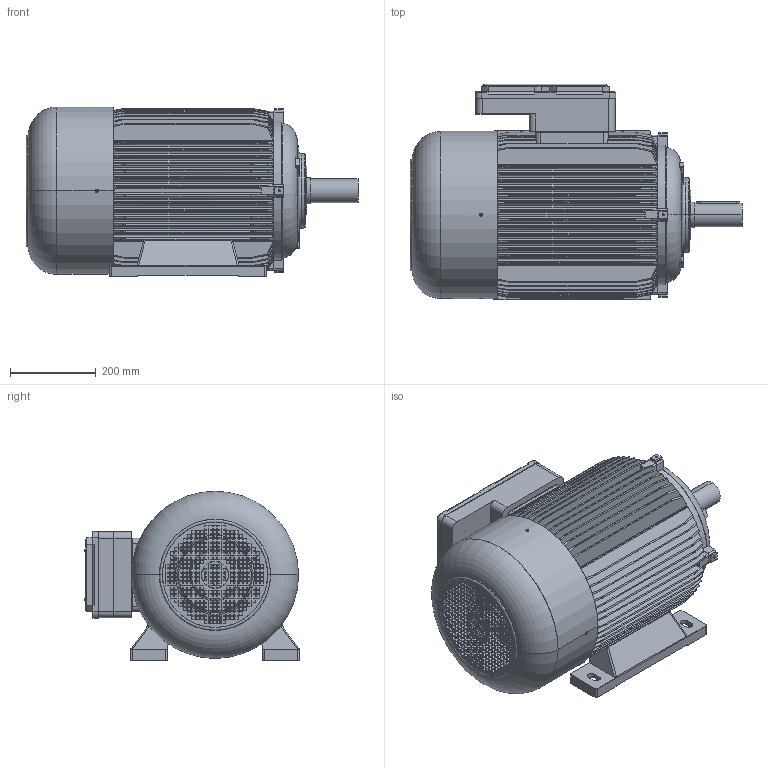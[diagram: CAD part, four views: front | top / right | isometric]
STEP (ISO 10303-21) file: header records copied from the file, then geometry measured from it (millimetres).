
FILE_DESCRIPTION (( 'STEP AP214' ), '1' );
FILE_NAME ('SMX 200 L B3.STEP', '2018-07-04T14:39:45', ( '' ), ( '' ), 'SwSTEP 2.0', 'SolidWorks 2018', '' );
FILE_SCHEMA (( 'AUTOMOTIVE_DESIGN' ));
Length unit declared in the file: millimetre
Products named in the file (10): Albero SM 200 L IEC; Scatola Morsettiera 225-250 -280 - Completa; Guarnizioni Scatola Morsettiera 225-250-280 - D7C40109; Coperchio Scatola Morsettiera 225-250 - 280 - D7C20109; Scatola Morsettiera 225-250 -280 - D7C10209; Scudo Lato Comando B3 200 - D7E40115; Carcassa IEC 200 B3; SMX 200 L B3; Chiavetta 200-225 2p; Cuffia SM 200 IEC
Assembly tree (10 placements, depth 3):
  SMX 200 L B3
    Carcassa IEC 200 B3
    Scudo Lato Comando B3 200 - D7E40115  x2
    Scatola Morsettiera 225-250 -280 - Completa
      Scatola Morsettiera 225-250 -280 - D7C10209
      Coperchio Scatola Morsettiera 225-250 - 280 - D7C20109
      Guarnizioni Scatola Morsettiera 225-250-280 - D7C40109
    Albero SM 200 L IEC
    Cuffia SM 200 IEC
    Chiavetta 200-225 2p
Bounding box: 772.49 x 501 x 394.5 mm (x, y, z)
Volume: 18314893.3 mm3; surface area: 4019388.3 mm2
Topology: 9 solids, 9 shells, 3577 faces, 10134 edges, 6584 vertices
Faces by surface type: plane 2163, cylinder 764, cone 352, torus 216, bspline 58, sphere 24
Entity records: 119280 total; most frequent: CARTESIAN_POINT 33520, ORIENTED_EDGE 18402, DIRECTION 15827, EDGE_CURVE 9201, VECTOR 6559, LINE 6559, VERTEX_POINT 6033, AXIS2_PLACEMENT_3D 4634
